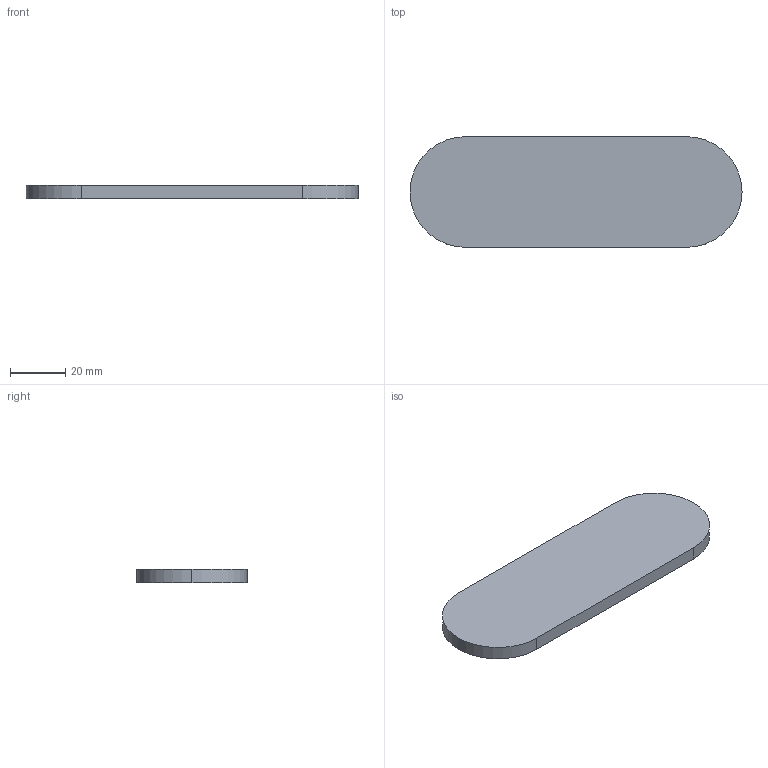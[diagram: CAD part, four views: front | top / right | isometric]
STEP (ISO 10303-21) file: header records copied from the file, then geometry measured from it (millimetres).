
FILE_DESCRIPTION (( 'STEP AP214' ), '1' );
FILE_NAME ('NIK_112.STEP', '2021-11-29T08:45:32', ( '' ), ( '' ), 'SwSTEP 2.0', 'SolidWorks 2019', '' );
FILE_SCHEMA (( 'AUTOMOTIVE_DESIGN' ));
Length unit declared in the file: millimetre
Products named in the file (1): NIK_112
Bounding box: 120 x 40 x 5 mm (x, y, z)
Volume: 22283.2 mm3; surface area: 10341.6 mm2
Topology: 1 solids, 1 shells, 7 faces, 15 edges, 10 vertices
Faces by surface type: plane 4, cylinder 3
Entity records: 229 total; most frequent: DIRECTION 37, CARTESIAN_POINT 33, ORIENTED_EDGE 30, EDGE_CURVE 15, AXIS2_PLACEMENT_3D 14, VERTEX_POINT 10, LINE 9, VECTOR 9
